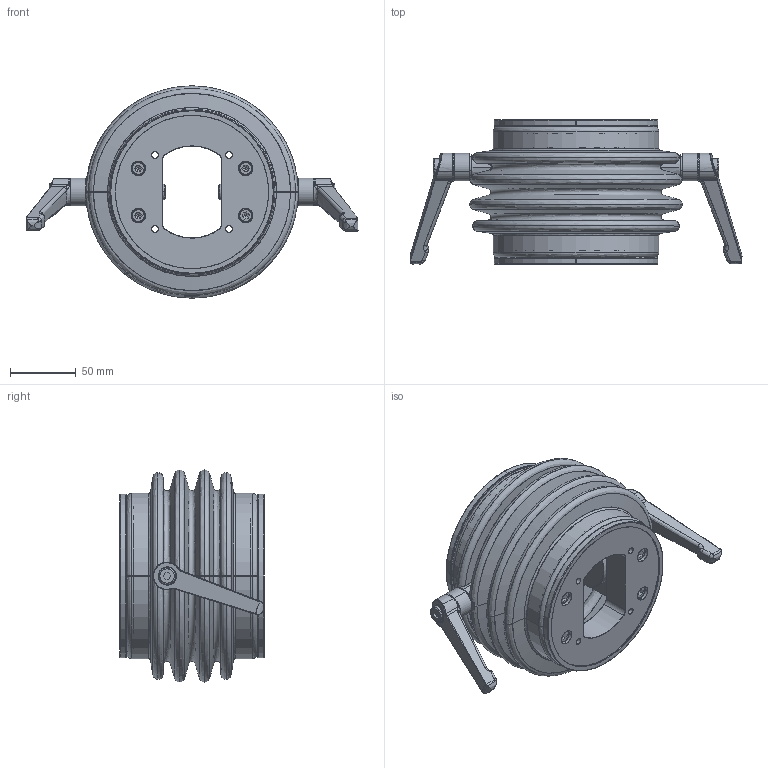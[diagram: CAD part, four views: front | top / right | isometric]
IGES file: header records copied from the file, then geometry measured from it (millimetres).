
Start section: SolidWorks IGES file using analytic representation for surfaces
Global section: file name: P:\SAGINAW_CONTROL\designers\tucker-dobrinski\WEBSITE-CATALOG IMAGES\WEB JPG\SUSPENSION SYSTEM\WEB-FILES\WEB-FILES\SCE-SA45IA\sce-sa45ia.igs; native system: SolidWorks 2016; preprocessor: SolidWorks 2016; author: Eplan; date: 180730.113308; units: inch
Bounding box: 253.43 x 110 x 161.98 mm (x, y, z)
Surface area: 319532 mm2 (no closed solid volume)
Topology: 0 solids, 0 shells, 937 faces, 10500 edges, 10463 vertices
Faces by surface type: bspline 569, revolution 368
